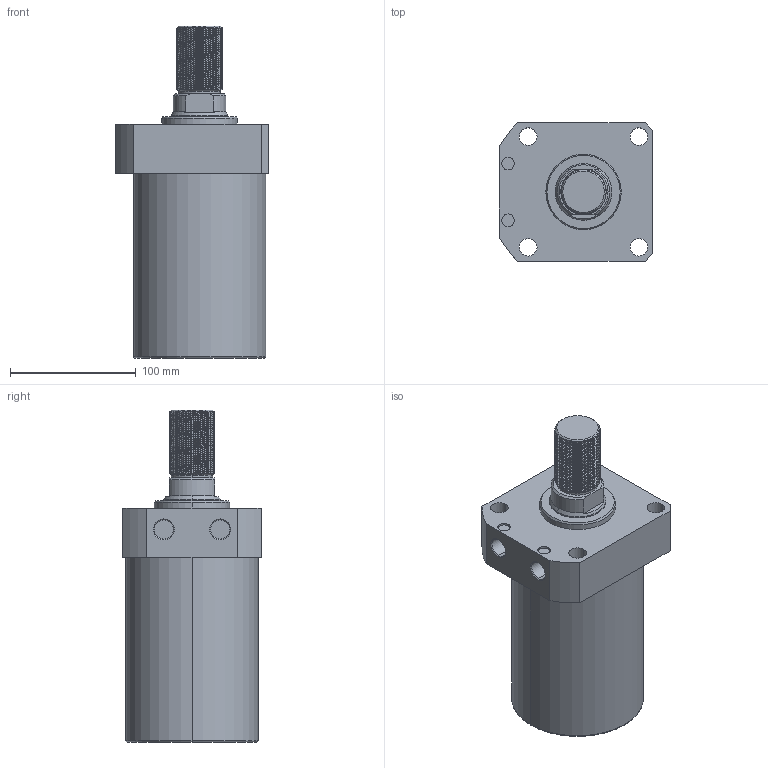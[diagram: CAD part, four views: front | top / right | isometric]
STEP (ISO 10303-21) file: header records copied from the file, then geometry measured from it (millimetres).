
FILE_DESCRIPTION (( 'STEP AP214' ), '1' );
FILE_NAME ('CLLR-105CT-100.STEP', '2020-01-10T03:09:29', ( 'Windows' ), ( 'Microsoft' ), 'SwSTEP 2.0', 'SolidWorks 2015', '' );
FILE_SCHEMA (( 'AUTOMOTIVE_DESIGN' ));
Length unit declared in the file: millimetre
Products named in the file (1): CLLR-105CT-100
Bounding box: 122 x 110 x 264 mm (x, y, z)
Volume: 1846010.3 mm3; surface area: 111986.5 mm2
Topology: 1 solids, 1 shells, 136 faces, 363 edges, 237 vertices
Faces by surface type: cylinder 97, plane 20, cone 15, torus 2, bspline 2
Entity records: 8177 total; most frequent: CARTESIAN_POINT 5053, ORIENTED_EDGE 726, DIRECTION 565, EDGE_CURVE 363, VERTEX_POINT 237, AXIS2_PLACEMENT_3D 216, EDGE_LOOP 152, ADVANCED_FACE 136
